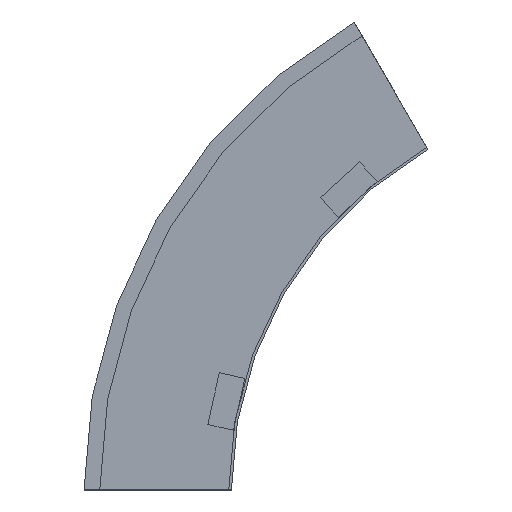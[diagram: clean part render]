
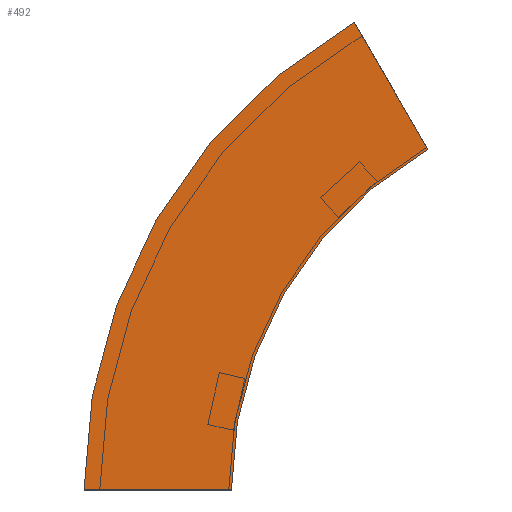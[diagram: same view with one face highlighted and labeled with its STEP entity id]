
A CAD part, left-side view. The second image highlights one B-rep face of the part: STEP entity #492.
In plain terms, the highlighted planar face has unit normal (-1, 0, 0) as drawn and (1, 0, 0) by its records, which use the part's own axes.
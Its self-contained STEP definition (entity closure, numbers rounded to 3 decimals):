
#11 = DIRECTION ( 'NONE',  ( 0., 1., 0. ) ) ;
#14 = CIRCLE ( 'NONE', #73, 300. ) ;
#47 = CARTESIAN_POINT ( 'NONE',  ( 0., -150., 259.808 ) ) ;
#57 = CARTESIAN_POINT ( 'NONE',  ( 0., 0., 0. ) ) ;
#72 = CARTESIAN_POINT ( 'NONE',  ( 0., -300., 0. ) ) ;
#73 = AXIS2_PLACEMENT_3D ( 'NONE', #251, #107, #271 ) ;
#91 = DIRECTION ( 'NONE',  ( 1., 0., 0. ) ) ;
#107 = DIRECTION ( 'NONE',  ( 1., 0., 0. ) ) ;
#114 = ORIENTED_EDGE ( 'NONE', *, *, #566, .T. ) ;
#126 = CARTESIAN_POINT ( 'NONE',  ( 0., 112.5, 0. ) ) ;
#135 = EDGE_LOOP ( 'NONE', ( #114, #187, #154, #329 ) ) ;
#142 = CIRCLE ( 'NONE', #201, 412.5 ) ;
#143 = DIRECTION ( 'NONE',  ( 0., 0.5, 0.866 ) ) ;
#154 = ORIENTED_EDGE ( 'NONE', *, *, #177, .F. ) ;
#177 = EDGE_CURVE ( 'NONE', #380, #332, #14, .T. ) ;
#187 = ORIENTED_EDGE ( 'NONE', *, *, #352, .F. ) ;
#188 = VERTEX_POINT ( 'NONE', #126 ) ;
#191 = AXIS2_PLACEMENT_3D ( 'NONE', #212, #91, #561 ) ;
#194 = LINE ( 'NONE', #227, #495 ) ;
#201 = AXIS2_PLACEMENT_3D ( 'NONE', #72, #286, #259 ) ;
#212 = CARTESIAN_POINT ( 'NONE',  ( 0., 0., 0. ) ) ;
#227 = CARTESIAN_POINT ( 'NONE',  ( 0., -150., 259.808 ) ) ;
#233 = VECTOR ( 'NONE', #11, 1000. ) ;
#251 = CARTESIAN_POINT ( 'NONE',  ( 0., -300., 0. ) ) ;
#259 = DIRECTION ( 'NONE',  ( 0., 1., 0. ) ) ;
#271 = DIRECTION ( 'NONE',  ( 0., 1., 0. ) ) ;
#286 = DIRECTION ( 'NONE',  ( 1., 0., 0. ) ) ;
#306 = EDGE_CURVE ( 'NONE', #380, #188, #570, .T. ) ;
#329 = ORIENTED_EDGE ( 'NONE', *, *, #306, .T. ) ;
#332 = VERTEX_POINT ( 'NONE', #47 ) ;
#352 = EDGE_CURVE ( 'NONE', #332, #532, #194, .T. ) ;
#376 = CARTESIAN_POINT ( 'NONE',  ( 0., -93.75, 357.235 ) ) ;
#380 = VERTEX_POINT ( 'NONE', #459 ) ;
#383 = FACE_OUTER_BOUND ( 'NONE', #135, .T. ) ;
#459 = CARTESIAN_POINT ( 'NONE',  ( 0., 0., 0. ) ) ;
#492 = ADVANCED_FACE ( 'NONE', ( #383 ), #526, .T. ) ;
#495 = VECTOR ( 'NONE', #143, 1000. ) ;
#526 = PLANE ( 'NONE',  #191 ) ;
#532 = VERTEX_POINT ( 'NONE', #376 ) ;
#561 = DIRECTION ( 'NONE',  ( 0., 0., -1. ) ) ;
#566 = EDGE_CURVE ( 'NONE', #188, #532, #142, .T. ) ;
#570 = LINE ( 'NONE', #57, #233 ) ;
